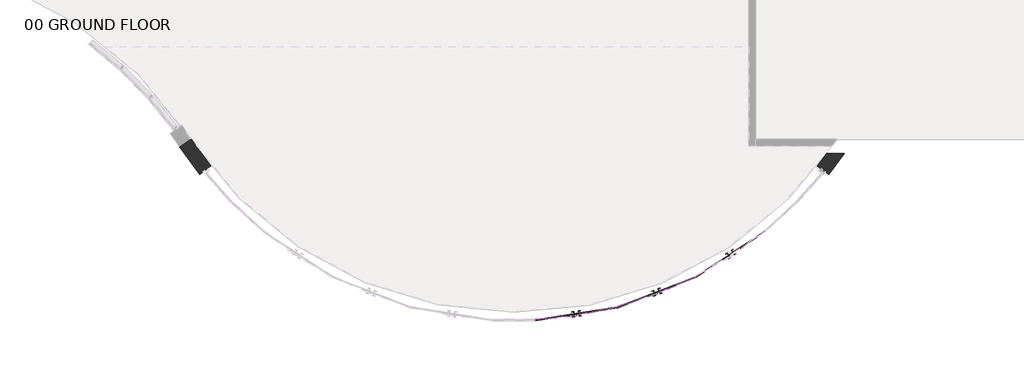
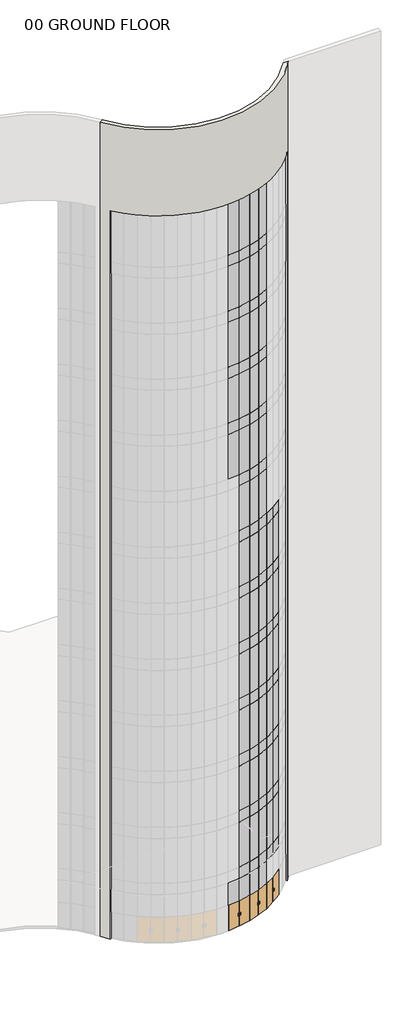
# One storey, part 3 of 33: 111 plates, 3 doors, 1 wall.
"""IFC4 building model written with IfcOpenShell, lengths in millimetres."""

from ifc_helpers import new_model, si_unit, frame, origin, place, context, project, spatial, polyline, circle_curve, transform, mapped, element, save
from ifc_brep_helpers import plane_surface, cylinder_surface, revolved_surface, advanced_brep
from components import door_curtain_wall_double_glass_door_curtain_wall_double_bdbd88c7, system_panel_su_blue_33e27b82, system_panel_su_blue_3064f965, system_panel_su_blue_5a18cedf, system_panel_su_blue_3781345d

model = new_model("IFC4")

# Units and contexts
model_context = context("Model", 3, world=origin())
ifc_project = project(units=[si_unit("LENGTHUNIT", "METRE", prefix="MILLI")], contexts=[model_context])

# Site, building, storey
site = spatial("IfcSite", under=ifc_project)
building = spatial("IfcBuilding", under=site)
storey = spatial("IfcBuildingStorey", under=building, Name="00 GROUND FLOOR", Elevation=0.0)

# Doors
placement = place(None, origin())
door_curtain_wall_double_glass_door_curtain_wall_double_shape = door_curtain_wall_double_glass_door_curtain_wall_double_bdbd88c7(model_context)
element("IfcDoor", 1, ObjectType="Door-Curtain-Wall-Double-Glass : Door-Curtain-Wall-Double-Glass", at=placement, inside=storey, context=model_context, shape_type="MappedRepresentation", body=[
    mapped(door_curtain_wall_double_glass_door_curtain_wall_double_shape, transform((34389.7708263, -2308.6939953, 63.5), x_axis=(-0.8353669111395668, -0.5496927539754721, 0.0), y_axis=(0.5496927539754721, -0.8353669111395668, 0.0), z_axis=(0.0, 0.0, 1.0))),
])
element("IfcDoor", 2, ObjectType="Door-Curtain-Wall-Double-Glass : Door-Curtain-Wall-Double-Glass", at=placement, inside=storey, context=model_context, shape_type="MappedRepresentation", body=[
    mapped(door_curtain_wall_double_glass_door_curtain_wall_double_shape, transform((32792.2078256, -3132.6589511, 63.5), x_axis=(-0.9321966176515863, -0.36195229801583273, 0.0), y_axis=(0.36195229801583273, -0.9321966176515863, 0.0), z_axis=(0.0, 0.0, 1.0))),
])
element("IfcDoor", 3, ObjectType="Door-Curtain-Wall-Double-Glass : Door-Curtain-Wall-Double-Glass", at=placement, inside=storey, context=model_context, shape_type="MappedRepresentation", body=[
    mapped(door_curtain_wall_double_glass_door_curtain_wall_double_shape, transform((31057.2073781, -3602.6581393, 63.5), x_axis=(-0.9874294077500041, -0.1580606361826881, 0.0), y_axis=(0.1580606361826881, -0.9874294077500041, 0.0), z_axis=(0.0, 0.0, 1.0))),
])

# Plates
system_panel_su_blue_shape = system_panel_su_blue_33e27b82(model_context)
element("IfcPlate", 4, ObjectType="System Panel : SU_BLUE", at=placement, inside=storey, context=model_context, shape_type="MappedRepresentation", body=[
    mapped(system_panel_su_blue_shape, transform((34780.4378309, -2080.27409, 3962.4), x_axis=(-0.8051279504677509, -0.5931011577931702, 0.0), y_axis=(0.5931011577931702, -0.8051279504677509, 0.0), z_axis=(0.0, 0.0, 1.0))),
])
element("IfcPlate", 5, ObjectType="System Panel : SU_BLUE", at=placement, inside=storey, context=model_context, shape_type="MappedRepresentation", body=[
    mapped(system_panel_su_blue_shape, transform((34025.4147454, -2577.0985555, 3962.4), x_axis=(-0.8632679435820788, -0.5047459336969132, 0.0), y_axis=(0.5047459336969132, -0.8632679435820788, 0.0), z_axis=(0.0, 0.0, 1.0))),
])
element("IfcPlate", 6, ObjectType="System Panel : SU_BLUE", at=placement, inside=storey, context=model_context, shape_type="MappedRepresentation", body=[
    mapped(system_panel_su_blue_shape, transform((33222.1401671, -2991.3983998, 3962.4), x_axis=(-0.9117506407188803, -0.41074416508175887, 0.0), y_axis=(0.41074416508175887, -0.9117506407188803, 0.0), z_axis=(0.0, 0.0, 1.0))),
])
element("IfcPlate", 7, ObjectType="System Panel : SU_BLUE", at=placement, inside=storey, context=model_context, shape_type="MappedRepresentation", body=[
    mapped(system_panel_su_blue_shape, transform((32379.6002518, -3318.5388901, 3962.4), x_axis=(-0.9500336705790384, -0.31214744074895, 0.0), y_axis=(0.31214744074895, -0.9500336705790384, 0.0), z_axis=(0.0, 0.0, 1.0))),
])
element("IfcPlate", 8, ObjectType="System Panel : SU_BLUE", at=placement, inside=storey, context=model_context, shape_type="MappedRepresentation", body=[
    mapped(system_panel_su_blue_shape, transform((31507.2204131, -3554.8603369, 3962.4), x_axis=(-0.9776887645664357, -0.21005875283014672, 0.0), y_axis=(0.21005875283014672, -0.9776887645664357, 0.0), z_axis=(0.0, 0.0, 1.0))),
])
element("IfcPlate", 9, ObjectType="System Panel : SU_BLUE", at=placement, inside=storey, context=model_context, shape_type="MappedRepresentation", body=[
    mapped(system_panel_su_blue_shape, transform((34780.4378309, -2080.27409, 8534.4), x_axis=(-0.8051279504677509, -0.5931011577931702, 0.0), y_axis=(0.5931011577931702, -0.8051279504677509, 0.0), z_axis=(0.0, 0.0, 1.0))),
])
element("IfcPlate", 10, ObjectType="System Panel : SU_BLUE", at=placement, inside=storey, context=model_context, shape_type="MappedRepresentation", body=[
    mapped(system_panel_su_blue_shape, transform((34025.4147454, -2577.0985555, 8534.4), x_axis=(-0.8632679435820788, -0.5047459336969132, 0.0), y_axis=(0.5047459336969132, -0.8632679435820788, 0.0), z_axis=(0.0, 0.0, 1.0))),
])
element("IfcPlate", 11, ObjectType="System Panel : SU_BLUE", at=placement, inside=storey, context=model_context, shape_type="MappedRepresentation", body=[
    mapped(system_panel_su_blue_shape, transform((33222.1401671, -2991.3983998, 8534.4), x_axis=(-0.9117506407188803, -0.41074416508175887, 0.0), y_axis=(0.41074416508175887, -0.9117506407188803, 0.0), z_axis=(0.0, 0.0, 1.0))),
])
element("IfcPlate", 12, ObjectType="System Panel : SU_BLUE", at=placement, inside=storey, context=model_context, shape_type="MappedRepresentation", body=[
    mapped(system_panel_su_blue_shape, transform((32379.6002518, -3318.5388901, 8534.4), x_axis=(-0.9500336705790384, -0.31214744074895, 0.0), y_axis=(0.31214744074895, -0.9500336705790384, 0.0), z_axis=(0.0, 0.0, 1.0))),
])
element("IfcPlate", 13, ObjectType="System Panel : SU_BLUE", at=placement, inside=storey, context=model_context, shape_type="MappedRepresentation", body=[
    mapped(system_panel_su_blue_shape, transform((31507.2204131, -3554.8603369, 8534.4), x_axis=(-0.9776887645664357, -0.21005875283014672, 0.0), y_axis=(0.21005875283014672, -0.9776887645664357, 0.0), z_axis=(0.0, 0.0, 1.0))),
])
element("IfcPlate", 14, ObjectType="System Panel : SU_BLUE", at=placement, inside=storey, context=model_context, shape_type="MappedRepresentation", body=[
    mapped(system_panel_su_blue_shape, transform((34780.4378309, -2080.27409, 13106.4), x_axis=(-0.8051279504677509, -0.5931011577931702, 0.0), y_axis=(0.5931011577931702, -0.8051279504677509, 0.0), z_axis=(0.0, 0.0, 1.0))),
])
element("IfcPlate", 15, ObjectType="System Panel : SU_BLUE", at=placement, inside=storey, context=model_context, shape_type="MappedRepresentation", body=[
    mapped(system_panel_su_blue_shape, transform((34025.4147454, -2577.0985555, 13106.4), x_axis=(-0.8632679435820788, -0.5047459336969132, 0.0), y_axis=(0.5047459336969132, -0.8632679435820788, 0.0), z_axis=(0.0, 0.0, 1.0))),
])
element("IfcPlate", 16, ObjectType="System Panel : SU_BLUE", at=placement, inside=storey, context=model_context, shape_type="MappedRepresentation", body=[
    mapped(system_panel_su_blue_shape, transform((33222.1401671, -2991.3983998, 13106.4), x_axis=(-0.9117506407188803, -0.41074416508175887, 0.0), y_axis=(0.41074416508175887, -0.9117506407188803, 0.0), z_axis=(0.0, 0.0, 1.0))),
])
element("IfcPlate", 17, ObjectType="System Panel : SU_BLUE", at=placement, inside=storey, context=model_context, shape_type="MappedRepresentation", body=[
    mapped(system_panel_su_blue_shape, transform((32379.6002518, -3318.5388901, 13106.4), x_axis=(-0.9500336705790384, -0.31214744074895, 0.0), y_axis=(0.31214744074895, -0.9500336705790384, 0.0), z_axis=(0.0, 0.0, 1.0))),
])
element("IfcPlate", 18, ObjectType="System Panel : SU_BLUE", at=placement, inside=storey, context=model_context, shape_type="MappedRepresentation", body=[
    mapped(system_panel_su_blue_shape, transform((31507.2204131, -3554.8603369, 13106.4), x_axis=(-0.9776887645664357, -0.21005875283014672, 0.0), y_axis=(0.21005875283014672, -0.9776887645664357, 0.0), z_axis=(0.0, 0.0, 1.0))),
])
element("IfcPlate", 19, ObjectType="System Panel : SU_BLUE", at=placement, inside=storey, context=model_context, shape_type="MappedRepresentation", body=[
    mapped(system_panel_su_blue_shape, transform((34780.4378309, -2080.27409, 17678.4), x_axis=(-0.8051279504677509, -0.5931011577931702, 0.0), y_axis=(0.5931011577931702, -0.8051279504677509, 0.0), z_axis=(0.0, 0.0, 1.0))),
])
element("IfcPlate", 20, ObjectType="System Panel : SU_BLUE", at=placement, inside=storey, context=model_context, shape_type="MappedRepresentation", body=[
    mapped(system_panel_su_blue_shape, transform((34025.4147454, -2577.0985555, 17678.4), x_axis=(-0.8632679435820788, -0.5047459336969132, 0.0), y_axis=(0.5047459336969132, -0.8632679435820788, 0.0), z_axis=(0.0, 0.0, 1.0))),
])
element("IfcPlate", 21, ObjectType="System Panel : SU_BLUE", at=placement, inside=storey, context=model_context, shape_type="MappedRepresentation", body=[
    mapped(system_panel_su_blue_shape, transform((33222.1401671, -2991.3983998, 17678.4), x_axis=(-0.9117506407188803, -0.41074416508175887, 0.0), y_axis=(0.41074416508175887, -0.9117506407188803, 0.0), z_axis=(0.0, 0.0, 1.0))),
])
element("IfcPlate", 22, ObjectType="System Panel : SU_BLUE", at=placement, inside=storey, context=model_context, shape_type="MappedRepresentation", body=[
    mapped(system_panel_su_blue_shape, transform((32379.6002518, -3318.5388901, 17678.4), x_axis=(-0.9500336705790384, -0.31214744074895, 0.0), y_axis=(0.31214744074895, -0.9500336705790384, 0.0), z_axis=(0.0, 0.0, 1.0))),
])
element("IfcPlate", 23, ObjectType="System Panel : SU_BLUE", at=placement, inside=storey, context=model_context, shape_type="MappedRepresentation", body=[
    mapped(system_panel_su_blue_shape, transform((31507.2204131, -3554.8603369, 17678.4), x_axis=(-0.9776887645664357, -0.21005875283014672, 0.0), y_axis=(0.21005875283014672, -0.9776887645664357, 0.0), z_axis=(0.0, 0.0, 1.0))),
])
element("IfcPlate", 24, ObjectType="System Panel : SU_BLUE", at=placement, inside=storey, context=model_context, shape_type="MappedRepresentation", body=[
    mapped(system_panel_su_blue_shape, transform((34780.4378309, -2080.27409, 22250.4), x_axis=(-0.8051279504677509, -0.5931011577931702, 0.0), y_axis=(0.5931011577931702, -0.8051279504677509, 0.0), z_axis=(0.0, 0.0, 1.0))),
])
element("IfcPlate", 25, ObjectType="System Panel : SU_BLUE", at=placement, inside=storey, context=model_context, shape_type="MappedRepresentation", body=[
    mapped(system_panel_su_blue_shape, transform((34025.4147454, -2577.0985555, 22250.4), x_axis=(-0.8632679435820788, -0.5047459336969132, 0.0), y_axis=(0.5047459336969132, -0.8632679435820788, 0.0), z_axis=(0.0, 0.0, 1.0))),
])
element("IfcPlate", 26, ObjectType="System Panel : SU_BLUE", at=placement, inside=storey, context=model_context, shape_type="MappedRepresentation", body=[
    mapped(system_panel_su_blue_shape, transform((33222.1401671, -2991.3983998, 22250.4), x_axis=(-0.9117506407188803, -0.41074416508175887, 0.0), y_axis=(0.41074416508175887, -0.9117506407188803, 0.0), z_axis=(0.0, 0.0, 1.0))),
])
element("IfcPlate", 27, ObjectType="System Panel : SU_BLUE", at=placement, inside=storey, context=model_context, shape_type="MappedRepresentation", body=[
    mapped(system_panel_su_blue_shape, transform((32379.6002518, -3318.5388901, 22250.4), x_axis=(-0.9500336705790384, -0.31214744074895, 0.0), y_axis=(0.31214744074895, -0.9500336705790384, 0.0), z_axis=(0.0, 0.0, 1.0))),
])
element("IfcPlate", 28, ObjectType="System Panel : SU_BLUE", at=placement, inside=storey, context=model_context, shape_type="MappedRepresentation", body=[
    mapped(system_panel_su_blue_shape, transform((31507.2204131, -3554.8603369, 22250.4), x_axis=(-0.9776887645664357, -0.21005875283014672, 0.0), y_axis=(0.21005875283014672, -0.9776887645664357, 0.0), z_axis=(0.0, 0.0, 1.0))),
])
element("IfcPlate", 29, ObjectType="System Panel : SU_BLUE", at=placement, inside=storey, context=model_context, shape_type="MappedRepresentation", body=[
    mapped(system_panel_su_blue_shape, transform((34780.4378309, -2080.27409, 26822.4), x_axis=(-0.8051279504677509, -0.5931011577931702, 0.0), y_axis=(0.5931011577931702, -0.8051279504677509, 0.0), z_axis=(0.0, 0.0, 1.0))),
])
element("IfcPlate", 30, ObjectType="System Panel : SU_BLUE", at=placement, inside=storey, context=model_context, shape_type="MappedRepresentation", body=[
    mapped(system_panel_su_blue_shape, transform((34025.4147454, -2577.0985555, 26822.4), x_axis=(-0.8632679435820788, -0.5047459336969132, 0.0), y_axis=(0.5047459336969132, -0.8632679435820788, 0.0), z_axis=(0.0, 0.0, 1.0))),
])
element("IfcPlate", 31, ObjectType="System Panel : SU_BLUE", at=placement, inside=storey, context=model_context, shape_type="MappedRepresentation", body=[
    mapped(system_panel_su_blue_shape, transform((33222.1401671, -2991.3983998, 26822.4), x_axis=(-0.9117506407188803, -0.41074416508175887, 0.0), y_axis=(0.41074416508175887, -0.9117506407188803, 0.0), z_axis=(0.0, 0.0, 1.0))),
])
element("IfcPlate", 32, ObjectType="System Panel : SU_BLUE", at=placement, inside=storey, context=model_context, shape_type="MappedRepresentation", body=[
    mapped(system_panel_su_blue_shape, transform((32379.6002518, -3318.5388901, 26822.4), x_axis=(-0.9500336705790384, -0.31214744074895, 0.0), y_axis=(0.31214744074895, -0.9500336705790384, 0.0), z_axis=(0.0, 0.0, 1.0))),
])
element("IfcPlate", 33, ObjectType="System Panel : SU_BLUE", at=placement, inside=storey, context=model_context, shape_type="MappedRepresentation", body=[
    mapped(system_panel_su_blue_shape, transform((31507.2204131, -3554.8603369, 26822.4), x_axis=(-0.9776887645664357, -0.21005875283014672, 0.0), y_axis=(0.21005875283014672, -0.9776887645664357, 0.0), z_axis=(0.0, 0.0, 1.0))),
])
element("IfcPlate", 34, ObjectType="System Panel : SU_BLUE", at=placement, inside=storey, context=model_context, shape_type="MappedRepresentation", body=[
    mapped(system_panel_su_blue_shape, transform((34780.4378309, -2080.27409, 31394.4), x_axis=(-0.8051279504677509, -0.5931011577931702, 0.0), y_axis=(0.5931011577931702, -0.8051279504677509, 0.0), z_axis=(0.0, 0.0, 1.0))),
])
element("IfcPlate", 35, ObjectType="System Panel : SU_BLUE", at=placement, inside=storey, context=model_context, shape_type="MappedRepresentation", body=[
    mapped(system_panel_su_blue_shape, transform((34025.4147454, -2577.0985555, 31394.4), x_axis=(-0.8632679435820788, -0.5047459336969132, 0.0), y_axis=(0.5047459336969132, -0.8632679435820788, 0.0), z_axis=(0.0, 0.0, 1.0))),
])
element("IfcPlate", 36, ObjectType="System Panel : SU_BLUE", at=placement, inside=storey, context=model_context, shape_type="MappedRepresentation", body=[
    mapped(system_panel_su_blue_shape, transform((33222.1401671, -2991.3983998, 31394.4), x_axis=(-0.9117506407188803, -0.41074416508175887, 0.0), y_axis=(0.41074416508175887, -0.9117506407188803, 0.0), z_axis=(0.0, 0.0, 1.0))),
])
element("IfcPlate", 37, ObjectType="System Panel : SU_BLUE", at=placement, inside=storey, context=model_context, shape_type="MappedRepresentation", body=[
    mapped(system_panel_su_blue_shape, transform((32379.6002518, -3318.5388901, 31394.4), x_axis=(-0.9500336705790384, -0.31214744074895, 0.0), y_axis=(0.31214744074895, -0.9500336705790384, 0.0), z_axis=(0.0, 0.0, 1.0))),
])
element("IfcPlate", 38, ObjectType="System Panel : SU_BLUE", at=placement, inside=storey, context=model_context, shape_type="MappedRepresentation", body=[
    mapped(system_panel_su_blue_shape, transform((31507.2204131, -3554.8603369, 31394.4), x_axis=(-0.9776887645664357, -0.21005875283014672, 0.0), y_axis=(0.21005875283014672, -0.9776887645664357, 0.0), z_axis=(0.0, 0.0, 1.0))),
])
element("IfcPlate", 39, ObjectType="System Panel : SU_BLUE", at=placement, inside=storey, context=model_context, shape_type="MappedRepresentation", body=[
    mapped(system_panel_su_blue_shape, transform((33222.1401671, -2991.3983998, 35966.4), x_axis=(-0.9117506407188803, -0.41074416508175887, 0.0), y_axis=(0.41074416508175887, -0.9117506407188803, 0.0), z_axis=(0.0, 0.0, 1.0))),
])
element("IfcPlate", 40, ObjectType="System Panel : SU_BLUE", at=placement, inside=storey, context=model_context, shape_type="MappedRepresentation", body=[
    mapped(system_panel_su_blue_shape, transform((32379.6002518, -3318.5388901, 35966.4), x_axis=(-0.9500336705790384, -0.31214744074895, 0.0), y_axis=(0.31214744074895, -0.9500336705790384, 0.0), z_axis=(0.0, 0.0, 1.0))),
])
element("IfcPlate", 41, ObjectType="System Panel : SU_BLUE", at=placement, inside=storey, context=model_context, shape_type="MappedRepresentation", body=[
    mapped(system_panel_su_blue_shape, transform((31507.2204131, -3554.8603369, 35966.4), x_axis=(-0.9776887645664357, -0.21005875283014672, 0.0), y_axis=(0.21005875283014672, -0.9776887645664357, 0.0), z_axis=(0.0, 0.0, 1.0))),
])
element("IfcPlate", 42, ObjectType="System Panel : SU_BLUE", at=placement, inside=storey, context=model_context, shape_type="MappedRepresentation", body=[
    mapped(system_panel_su_blue_shape, transform((33222.1401671, -2991.3983998, 40538.4), x_axis=(-0.9117506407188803, -0.41074416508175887, 0.0), y_axis=(0.41074416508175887, -0.9117506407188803, 0.0), z_axis=(0.0, 0.0, 1.0))),
])
element("IfcPlate", 43, ObjectType="System Panel : SU_BLUE", at=placement, inside=storey, context=model_context, shape_type="MappedRepresentation", body=[
    mapped(system_panel_su_blue_shape, transform((32379.6002518, -3318.5388901, 40538.4), x_axis=(-0.9500336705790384, -0.31214744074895, 0.0), y_axis=(0.31214744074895, -0.9500336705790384, 0.0), z_axis=(0.0, 0.0, 1.0))),
])
element("IfcPlate", 44, ObjectType="System Panel : SU_BLUE", at=placement, inside=storey, context=model_context, shape_type="MappedRepresentation", body=[
    mapped(system_panel_su_blue_shape, transform((31507.2204131, -3554.8603369, 40538.4), x_axis=(-0.9776887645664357, -0.21005875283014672, 0.0), y_axis=(0.21005875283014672, -0.9776887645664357, 0.0), z_axis=(0.0, 0.0, 1.0))),
])
element("IfcPlate", 45, ObjectType="System Panel : SU_BLUE", at=placement, inside=storey, context=model_context, shape_type="MappedRepresentation", body=[
    mapped(system_panel_su_blue_shape, transform((30614.7598809, -3697.7190348, 40538.4), x_axis=(-0.9944065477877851, -0.10562015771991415, 0.0), y_axis=(0.10562015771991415, -0.9944065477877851, 0.0), z_axis=(0.0, 0.0, 1.0))),
])
element("IfcPlate", 46, ObjectType="System Panel : SU_BLUE", at=placement, inside=storey, context=model_context, shape_type="MappedRepresentation", body=[
    mapped(system_panel_su_blue_shape, transform((33222.1401671, -2991.3983998, 45110.4), x_axis=(-0.9117506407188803, -0.41074416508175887, 0.0), y_axis=(0.41074416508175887, -0.9117506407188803, 0.0), z_axis=(0.0, 0.0, 1.0))),
])
element("IfcPlate", 47, ObjectType="System Panel : SU_BLUE", at=placement, inside=storey, context=model_context, shape_type="MappedRepresentation", body=[
    mapped(system_panel_su_blue_shape, transform((32379.6002518, -3318.5388901, 45110.4), x_axis=(-0.9500336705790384, -0.31214744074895, 0.0), y_axis=(0.31214744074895, -0.9500336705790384, 0.0), z_axis=(0.0, 0.0, 1.0))),
])
element("IfcPlate", 48, ObjectType="System Panel : SU_BLUE", at=placement, inside=storey, context=model_context, shape_type="MappedRepresentation", body=[
    mapped(system_panel_su_blue_shape, transform((31507.2204131, -3554.8603369, 45110.4), x_axis=(-0.9776887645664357, -0.21005875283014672, 0.0), y_axis=(0.21005875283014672, -0.9776887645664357, 0.0), z_axis=(0.0, 0.0, 1.0))),
])
element("IfcPlate", 49, ObjectType="System Panel : SU_BLUE", at=placement, inside=storey, context=model_context, shape_type="MappedRepresentation", body=[
    mapped(system_panel_su_blue_shape, transform((30614.7598809, -3697.7190348, 45110.4), x_axis=(-0.9944065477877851, -0.10562015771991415, 0.0), y_axis=(0.10562015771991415, -0.9944065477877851, 0.0), z_axis=(0.0, 0.0, 1.0))),
])
element("IfcPlate", 50, ObjectType="System Panel : SU_BLUE", at=placement, inside=storey, context=model_context, shape_type="MappedRepresentation", body=[
    mapped(system_panel_su_blue_shape, transform((33222.1401671, -2991.3983998, 49682.4), x_axis=(-0.9117506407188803, -0.41074416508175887, 0.0), y_axis=(0.41074416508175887, -0.9117506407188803, 0.0), z_axis=(0.0, 0.0, 1.0))),
])
element("IfcPlate", 51, ObjectType="System Panel : SU_BLUE", at=placement, inside=storey, context=model_context, shape_type="MappedRepresentation", body=[
    mapped(system_panel_su_blue_shape, transform((32379.6002518, -3318.5388901, 49682.4), x_axis=(-0.9500336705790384, -0.31214744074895, 0.0), y_axis=(0.31214744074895, -0.9500336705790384, 0.0), z_axis=(0.0, 0.0, 1.0))),
])
element("IfcPlate", 52, ObjectType="System Panel : SU_BLUE", at=placement, inside=storey, context=model_context, shape_type="MappedRepresentation", body=[
    mapped(system_panel_su_blue_shape, transform((31507.2204131, -3554.8603369, 49682.4), x_axis=(-0.9776887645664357, -0.21005875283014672, 0.0), y_axis=(0.21005875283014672, -0.9776887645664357, 0.0), z_axis=(0.0, 0.0, 1.0))),
])
element("IfcPlate", 53, ObjectType="System Panel : SU_BLUE", at=placement, inside=storey, context=model_context, shape_type="MappedRepresentation", body=[
    mapped(system_panel_su_blue_shape, transform((30614.7598809, -3697.7190348, 49682.4), x_axis=(-0.9944065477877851, -0.10562015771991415, 0.0), y_axis=(0.10562015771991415, -0.9944065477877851, 0.0), z_axis=(0.0, 0.0, 1.0))),
])
element("IfcPlate", 54, ObjectType="System Panel : SU_BLUE", at=placement, inside=storey, context=model_context, shape_type="MappedRepresentation", body=[
    mapped(system_panel_su_blue_shape, transform((33222.1401671, -2991.3983998, 54254.4), x_axis=(-0.9117506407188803, -0.41074416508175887, 0.0), y_axis=(0.41074416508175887, -0.9117506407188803, 0.0), z_axis=(0.0, 0.0, 1.0))),
])
element("IfcPlate", 55, ObjectType="System Panel : SU_BLUE", at=placement, inside=storey, context=model_context, shape_type="MappedRepresentation", body=[
    mapped(system_panel_su_blue_shape, transform((32379.6002518, -3318.5388901, 54254.4), x_axis=(-0.9500336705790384, -0.31214744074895, 0.0), y_axis=(0.31214744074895, -0.9500336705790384, 0.0), z_axis=(0.0, 0.0, 1.0))),
])
element("IfcPlate", 56, ObjectType="System Panel : SU_BLUE", at=placement, inside=storey, context=model_context, shape_type="MappedRepresentation", body=[
    mapped(system_panel_su_blue_shape, transform((31507.2204131, -3554.8603369, 54254.4), x_axis=(-0.9776887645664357, -0.21005875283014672, 0.0), y_axis=(0.21005875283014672, -0.9776887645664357, 0.0), z_axis=(0.0, 0.0, 1.0))),
])
element("IfcPlate", 57, ObjectType="System Panel : SU_BLUE", at=placement, inside=storey, context=model_context, shape_type="MappedRepresentation", body=[
    mapped(system_panel_su_blue_shape, transform((30614.7598809, -3697.7190348, 54254.4), x_axis=(-0.9944065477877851, -0.10562015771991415, 0.0), y_axis=(0.10562015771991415, -0.9944065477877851, 0.0), z_axis=(0.0, 0.0, 1.0))),
])
system_panel_su_blue_2_shape = system_panel_su_blue_3064f965(model_context)
element("IfcPlate", 58, ObjectType="System Panel : SU_BLUE", at=placement, inside=storey, context=model_context, shape_type="MappedRepresentation", body=[
    mapped(system_panel_su_blue_2_shape, transform((34780.4378309, -2080.27409, 4876.8), x_axis=(-0.8051279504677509, -0.5931011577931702, 0.0), y_axis=(0.5931011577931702, -0.8051279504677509, 0.0), z_axis=(0.0, 0.0, 1.0))),
])
element("IfcPlate", 59, ObjectType="System Panel : SU_BLUE", at=placement, inside=storey, context=model_context, shape_type="MappedRepresentation", body=[
    mapped(system_panel_su_blue_2_shape, transform((34025.4147454, -2577.0985555, 4876.8), x_axis=(-0.8632679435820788, -0.5047459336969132, 0.0), y_axis=(0.5047459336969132, -0.8632679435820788, 0.0), z_axis=(0.0, 0.0, 1.0))),
])
element("IfcPlate", 60, ObjectType="System Panel : SU_BLUE", at=placement, inside=storey, context=model_context, shape_type="MappedRepresentation", body=[
    mapped(system_panel_su_blue_2_shape, transform((33222.1401671, -2991.3983998, 4876.8), x_axis=(-0.9117506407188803, -0.41074416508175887, 0.0), y_axis=(0.41074416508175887, -0.9117506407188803, 0.0), z_axis=(0.0, 0.0, 1.0))),
])
element("IfcPlate", 61, ObjectType="System Panel : SU_BLUE", at=placement, inside=storey, context=model_context, shape_type="MappedRepresentation", body=[
    mapped(system_panel_su_blue_2_shape, transform((32379.6002518, -3318.5388901, 4876.8), x_axis=(-0.9500336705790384, -0.31214744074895, 0.0), y_axis=(0.31214744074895, -0.9500336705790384, 0.0), z_axis=(0.0, 0.0, 1.0))),
])
element("IfcPlate", 62, ObjectType="System Panel : SU_BLUE", at=placement, inside=storey, context=model_context, shape_type="MappedRepresentation", body=[
    mapped(system_panel_su_blue_2_shape, transform((31507.2204131, -3554.8603369, 4876.8), x_axis=(-0.9776887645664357, -0.21005875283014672, 0.0), y_axis=(0.21005875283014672, -0.9776887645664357, 0.0), z_axis=(0.0, 0.0, 1.0))),
])
element("IfcPlate", 63, ObjectType="System Panel : SU_BLUE", at=placement, inside=storey, context=model_context, shape_type="MappedRepresentation", body=[
    mapped(system_panel_su_blue_2_shape, transform((34780.4378309, -2080.27409, 9448.8), x_axis=(-0.8051279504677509, -0.5931011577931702, 0.0), y_axis=(0.5931011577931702, -0.8051279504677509, 0.0), z_axis=(0.0, 0.0, 1.0))),
])
element("IfcPlate", 64, ObjectType="System Panel : SU_BLUE", at=placement, inside=storey, context=model_context, shape_type="MappedRepresentation", body=[
    mapped(system_panel_su_blue_2_shape, transform((34025.4147454, -2577.0985555, 9448.8), x_axis=(-0.8632679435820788, -0.5047459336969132, 0.0), y_axis=(0.5047459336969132, -0.8632679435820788, 0.0), z_axis=(0.0, 0.0, 1.0))),
])
element("IfcPlate", 65, ObjectType="System Panel : SU_BLUE", at=placement, inside=storey, context=model_context, shape_type="MappedRepresentation", body=[
    mapped(system_panel_su_blue_2_shape, transform((33222.1401671, -2991.3983998, 9448.8), x_axis=(-0.9117506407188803, -0.41074416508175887, 0.0), y_axis=(0.41074416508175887, -0.9117506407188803, 0.0), z_axis=(0.0, 0.0, 1.0))),
])
element("IfcPlate", 66, ObjectType="System Panel : SU_BLUE", at=placement, inside=storey, context=model_context, shape_type="MappedRepresentation", body=[
    mapped(system_panel_su_blue_2_shape, transform((32379.6002518, -3318.5388901, 9448.8), x_axis=(-0.9500336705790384, -0.31214744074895, 0.0), y_axis=(0.31214744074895, -0.9500336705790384, 0.0), z_axis=(0.0, 0.0, 1.0))),
])
element("IfcPlate", 67, ObjectType="System Panel : SU_BLUE", at=placement, inside=storey, context=model_context, shape_type="MappedRepresentation", body=[
    mapped(system_panel_su_blue_2_shape, transform((31507.2204131, -3554.8603369, 9448.8), x_axis=(-0.9776887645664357, -0.21005875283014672, 0.0), y_axis=(0.21005875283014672, -0.9776887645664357, 0.0), z_axis=(0.0, 0.0, 1.0))),
])
element("IfcPlate", 68, ObjectType="System Panel : SU_BLUE", at=placement, inside=storey, context=model_context, shape_type="MappedRepresentation", body=[
    mapped(system_panel_su_blue_2_shape, transform((34780.4378309, -2080.27409, 14020.8), x_axis=(-0.8051279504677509, -0.5931011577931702, 0.0), y_axis=(0.5931011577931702, -0.8051279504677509, 0.0), z_axis=(0.0, 0.0, 1.0))),
])
element("IfcPlate", 69, ObjectType="System Panel : SU_BLUE", at=placement, inside=storey, context=model_context, shape_type="MappedRepresentation", body=[
    mapped(system_panel_su_blue_2_shape, transform((34025.4147454, -2577.0985555, 14020.8), x_axis=(-0.8632679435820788, -0.5047459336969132, 0.0), y_axis=(0.5047459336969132, -0.8632679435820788, 0.0), z_axis=(0.0, 0.0, 1.0))),
])
element("IfcPlate", 70, ObjectType="System Panel : SU_BLUE", at=placement, inside=storey, context=model_context, shape_type="MappedRepresentation", body=[
    mapped(system_panel_su_blue_2_shape, transform((33222.1401671, -2991.3983998, 14020.8), x_axis=(-0.9117506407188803, -0.41074416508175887, 0.0), y_axis=(0.41074416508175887, -0.9117506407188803, 0.0), z_axis=(0.0, 0.0, 1.0))),
])
element("IfcPlate", 71, ObjectType="System Panel : SU_BLUE", at=placement, inside=storey, context=model_context, shape_type="MappedRepresentation", body=[
    mapped(system_panel_su_blue_2_shape, transform((32379.6002518, -3318.5388901, 14020.8), x_axis=(-0.9500336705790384, -0.31214744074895, 0.0), y_axis=(0.31214744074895, -0.9500336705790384, 0.0), z_axis=(0.0, 0.0, 1.0))),
])
element("IfcPlate", 72, ObjectType="System Panel : SU_BLUE", at=placement, inside=storey, context=model_context, shape_type="MappedRepresentation", body=[
    mapped(system_panel_su_blue_2_shape, transform((31507.2204131, -3554.8603369, 14020.8), x_axis=(-0.9776887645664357, -0.21005875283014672, 0.0), y_axis=(0.21005875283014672, -0.9776887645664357, 0.0), z_axis=(0.0, 0.0, 1.0))),
])
element("IfcPlate", 73, ObjectType="System Panel : SU_BLUE", at=placement, inside=storey, context=model_context, shape_type="MappedRepresentation", body=[
    mapped(system_panel_su_blue_2_shape, transform((34780.4378309, -2080.27409, 18592.8), x_axis=(-0.8051279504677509, -0.5931011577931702, 0.0), y_axis=(0.5931011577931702, -0.8051279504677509, 0.0), z_axis=(0.0, 0.0, 1.0))),
])
element("IfcPlate", 74, ObjectType="System Panel : SU_BLUE", at=placement, inside=storey, context=model_context, shape_type="MappedRepresentation", body=[
    mapped(system_panel_su_blue_2_shape, transform((34025.4147454, -2577.0985555, 18592.8), x_axis=(-0.8632679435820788, -0.5047459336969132, 0.0), y_axis=(0.5047459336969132, -0.8632679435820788, 0.0), z_axis=(0.0, 0.0, 1.0))),
])
element("IfcPlate", 75, ObjectType="System Panel : SU_BLUE", at=placement, inside=storey, context=model_context, shape_type="MappedRepresentation", body=[
    mapped(system_panel_su_blue_2_shape, transform((33222.1401671, -2991.3983998, 18592.8), x_axis=(-0.9117506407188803, -0.41074416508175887, 0.0), y_axis=(0.41074416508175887, -0.9117506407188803, 0.0), z_axis=(0.0, 0.0, 1.0))),
])
element("IfcPlate", 76, ObjectType="System Panel : SU_BLUE", at=placement, inside=storey, context=model_context, shape_type="MappedRepresentation", body=[
    mapped(system_panel_su_blue_2_shape, transform((32379.6002518, -3318.5388901, 18592.8), x_axis=(-0.9500336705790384, -0.31214744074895, 0.0), y_axis=(0.31214744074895, -0.9500336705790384, 0.0), z_axis=(0.0, 0.0, 1.0))),
])
element("IfcPlate", 77, ObjectType="System Panel : SU_BLUE", at=placement, inside=storey, context=model_context, shape_type="MappedRepresentation", body=[
    mapped(system_panel_su_blue_2_shape, transform((31507.2204131, -3554.8603369, 18592.8), x_axis=(-0.9776887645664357, -0.21005875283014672, 0.0), y_axis=(0.21005875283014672, -0.9776887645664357, 0.0), z_axis=(0.0, 0.0, 1.0))),
])
element("IfcPlate", 78, ObjectType="System Panel : SU_BLUE", at=placement, inside=storey, context=model_context, shape_type="MappedRepresentation", body=[
    mapped(system_panel_su_blue_2_shape, transform((34780.4378309, -2080.27409, 23164.8), x_axis=(-0.8051279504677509, -0.5931011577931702, 0.0), y_axis=(0.5931011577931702, -0.8051279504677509, 0.0), z_axis=(0.0, 0.0, 1.0))),
])
element("IfcPlate", 79, ObjectType="System Panel : SU_BLUE", at=placement, inside=storey, context=model_context, shape_type="MappedRepresentation", body=[
    mapped(system_panel_su_blue_2_shape, transform((34025.4147454, -2577.0985555, 23164.8), x_axis=(-0.8632679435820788, -0.5047459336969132, 0.0), y_axis=(0.5047459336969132, -0.8632679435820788, 0.0), z_axis=(0.0, 0.0, 1.0))),
])
element("IfcPlate", 80, ObjectType="System Panel : SU_BLUE", at=placement, inside=storey, context=model_context, shape_type="MappedRepresentation", body=[
    mapped(system_panel_su_blue_2_shape, transform((33222.1401671, -2991.3983998, 23164.8), x_axis=(-0.9117506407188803, -0.41074416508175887, 0.0), y_axis=(0.41074416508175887, -0.9117506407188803, 0.0), z_axis=(0.0, 0.0, 1.0))),
])
element("IfcPlate", 81, ObjectType="System Panel : SU_BLUE", at=placement, inside=storey, context=model_context, shape_type="MappedRepresentation", body=[
    mapped(system_panel_su_blue_2_shape, transform((32379.6002518, -3318.5388901, 23164.8), x_axis=(-0.9500336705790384, -0.31214744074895, 0.0), y_axis=(0.31214744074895, -0.9500336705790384, 0.0), z_axis=(0.0, 0.0, 1.0))),
])
element("IfcPlate", 82, ObjectType="System Panel : SU_BLUE", at=placement, inside=storey, context=model_context, shape_type="MappedRepresentation", body=[
    mapped(system_panel_su_blue_2_shape, transform((31507.2204131, -3554.8603369, 23164.8), x_axis=(-0.9776887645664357, -0.21005875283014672, 0.0), y_axis=(0.21005875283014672, -0.9776887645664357, 0.0), z_axis=(0.0, 0.0, 1.0))),
])
element("IfcPlate", 83, ObjectType="System Panel : SU_BLUE", at=placement, inside=storey, context=model_context, shape_type="MappedRepresentation", body=[
    mapped(system_panel_su_blue_2_shape, transform((34780.4378309, -2080.27409, 27736.8), x_axis=(-0.8051279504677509, -0.5931011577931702, 0.0), y_axis=(0.5931011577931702, -0.8051279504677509, 0.0), z_axis=(0.0, 0.0, 1.0))),
])
element("IfcPlate", 84, ObjectType="System Panel : SU_BLUE", at=placement, inside=storey, context=model_context, shape_type="MappedRepresentation", body=[
    mapped(system_panel_su_blue_2_shape, transform((34025.4147454, -2577.0985555, 27736.8), x_axis=(-0.8632679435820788, -0.5047459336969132, 0.0), y_axis=(0.5047459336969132, -0.8632679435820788, 0.0), z_axis=(0.0, 0.0, 1.0))),
])
element("IfcPlate", 85, ObjectType="System Panel : SU_BLUE", at=placement, inside=storey, context=model_context, shape_type="MappedRepresentation", body=[
    mapped(system_panel_su_blue_2_shape, transform((33222.1401671, -2991.3983998, 27736.8), x_axis=(-0.9117506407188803, -0.41074416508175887, 0.0), y_axis=(0.41074416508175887, -0.9117506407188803, 0.0), z_axis=(0.0, 0.0, 1.0))),
])
element("IfcPlate", 86, ObjectType="System Panel : SU_BLUE", at=placement, inside=storey, context=model_context, shape_type="MappedRepresentation", body=[
    mapped(system_panel_su_blue_2_shape, transform((32379.6002518, -3318.5388901, 27736.8), x_axis=(-0.9500336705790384, -0.31214744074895, 0.0), y_axis=(0.31214744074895, -0.9500336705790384, 0.0), z_axis=(0.0, 0.0, 1.0))),
])
element("IfcPlate", 87, ObjectType="System Panel : SU_BLUE", at=placement, inside=storey, context=model_context, shape_type="MappedRepresentation", body=[
    mapped(system_panel_su_blue_2_shape, transform((31507.2204131, -3554.8603369, 27736.8), x_axis=(-0.9776887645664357, -0.21005875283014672, 0.0), y_axis=(0.21005875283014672, -0.9776887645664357, 0.0), z_axis=(0.0, 0.0, 1.0))),
])
element("IfcPlate", 88, ObjectType="System Panel : SU_BLUE", at=placement, inside=storey, context=model_context, shape_type="MappedRepresentation", body=[
    mapped(system_panel_su_blue_2_shape, transform((33222.1401671, -2991.3983998, 32308.8), x_axis=(-0.9117506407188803, -0.4107441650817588, 0.0), y_axis=(0.4107441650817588, -0.9117506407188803, 0.0), z_axis=(0.0, 0.0, 1.0))),
])
element("IfcPlate", 89, ObjectType="System Panel : SU_BLUE", at=placement, inside=storey, context=model_context, shape_type="MappedRepresentation", body=[
    mapped(system_panel_su_blue_2_shape, transform((32379.6002518, -3318.5388901, 32308.8), x_axis=(-0.9500336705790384, -0.31214744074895, 0.0), y_axis=(0.31214744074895, -0.9500336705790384, 0.0), z_axis=(0.0, 0.0, 1.0))),
])
element("IfcPlate", 90, ObjectType="System Panel : SU_BLUE", at=placement, inside=storey, context=model_context, shape_type="MappedRepresentation", body=[
    mapped(system_panel_su_blue_2_shape, transform((31507.2204131, -3554.8603369, 32308.8), x_axis=(-0.9776887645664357, -0.21005875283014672, 0.0), y_axis=(0.21005875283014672, -0.9776887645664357, 0.0), z_axis=(0.0, 0.0, 1.0))),
])
element("IfcPlate", 91, ObjectType="System Panel : SU_BLUE", at=placement, inside=storey, context=model_context, shape_type="MappedRepresentation", body=[
    mapped(system_panel_su_blue_2_shape, transform((33222.1401671, -2991.3983998, 36880.8), x_axis=(-0.9117506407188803, -0.410744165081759, 0.0), y_axis=(0.410744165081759, -0.9117506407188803, 0.0), z_axis=(0.0, 0.0, 1.0))),
])
element("IfcPlate", 92, ObjectType="System Panel : SU_BLUE", at=placement, inside=storey, context=model_context, shape_type="MappedRepresentation", body=[
    mapped(system_panel_su_blue_2_shape, transform((32379.6002518, -3318.5388901, 36880.8), x_axis=(-0.9500336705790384, -0.31214744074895, 0.0), y_axis=(0.31214744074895, -0.9500336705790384, 0.0), z_axis=(0.0, 0.0, 1.0))),
])
element("IfcPlate", 93, ObjectType="System Panel : SU_BLUE", at=placement, inside=storey, context=model_context, shape_type="MappedRepresentation", body=[
    mapped(system_panel_su_blue_2_shape, transform((31507.2204131, -3554.8603369, 36880.8), x_axis=(-0.9776887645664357, -0.21005875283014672, 0.0), y_axis=(0.21005875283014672, -0.9776887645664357, 0.0), z_axis=(0.0, 0.0, 1.0))),
])
element("IfcPlate", 94, ObjectType="System Panel : SU_BLUE", at=placement, inside=storey, context=model_context, shape_type="MappedRepresentation", body=[
    mapped(system_panel_su_blue_2_shape, transform((30614.7598809, -3697.7190348, 36880.8), x_axis=(-0.9944065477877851, -0.10562015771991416, 0.0), y_axis=(0.10562015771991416, -0.9944065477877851, 0.0), z_axis=(0.0, 0.0, 1.0))),
])
element("IfcPlate", 95, ObjectType="System Panel : SU_BLUE", at=placement, inside=storey, context=model_context, shape_type="MappedRepresentation", body=[
    mapped(system_panel_su_blue_2_shape, transform((33222.1401671, -2991.3983998, 41452.8), x_axis=(-0.9117506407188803, -0.41074416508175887, 0.0), y_axis=(0.41074416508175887, -0.9117506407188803, 0.0), z_axis=(0.0, 0.0, 1.0))),
])
element("IfcPlate", 96, ObjectType="System Panel : SU_BLUE", at=placement, inside=storey, context=model_context, shape_type="MappedRepresentation", body=[
    mapped(system_panel_su_blue_2_shape, transform((32379.6002518, -3318.5388901, 41452.8), x_axis=(-0.9500336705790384, -0.31214744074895, 0.0), y_axis=(0.31214744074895, -0.9500336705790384, 0.0), z_axis=(0.0, 0.0, 1.0))),
])
element("IfcPlate", 97, ObjectType="System Panel : SU_BLUE", at=placement, inside=storey, context=model_context, shape_type="MappedRepresentation", body=[
    mapped(system_panel_su_blue_2_shape, transform((31507.2204131, -3554.8603369, 41452.8), x_axis=(-0.9776887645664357, -0.21005875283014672, 0.0), y_axis=(0.21005875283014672, -0.9776887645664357, 0.0), z_axis=(0.0, 0.0, 1.0))),
])
element("IfcPlate", 98, ObjectType="System Panel : SU_BLUE", at=placement, inside=storey, context=model_context, shape_type="MappedRepresentation", body=[
    mapped(system_panel_su_blue_2_shape, transform((30614.7598809, -3697.7190348, 41452.8), x_axis=(-0.9944065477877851, -0.10562015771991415, 0.0), y_axis=(0.10562015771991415, -0.9944065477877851, 0.0), z_axis=(0.0, 0.0, 1.0))),
])
element("IfcPlate", 99, ObjectType="System Panel : SU_BLUE", at=placement, inside=storey, context=model_context, shape_type="MappedRepresentation", body=[
    mapped(system_panel_su_blue_2_shape, transform((33222.1401671, -2991.3983998, 46024.8), x_axis=(-0.9117506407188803, -0.41074416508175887, 0.0), y_axis=(0.41074416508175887, -0.9117506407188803, 0.0), z_axis=(0.0, 0.0, 1.0))),
])
element("IfcPlate", 100, ObjectType="System Panel : SU_BLUE", at=placement, inside=storey, context=model_context, shape_type="MappedRepresentation", body=[
    mapped(system_panel_su_blue_2_shape, transform((32379.6002518, -3318.5388901, 46024.8), x_axis=(-0.9500336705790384, -0.31214744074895, 0.0), y_axis=(0.31214744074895, -0.9500336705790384, 0.0), z_axis=(0.0, 0.0, 1.0))),
])
element("IfcPlate", 101, ObjectType="System Panel : SU_BLUE", at=placement, inside=storey, context=model_context, shape_type="MappedRepresentation", body=[
    mapped(system_panel_su_blue_2_shape, transform((31507.2204131, -3554.8603369, 46024.8), x_axis=(-0.9776887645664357, -0.21005875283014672, 0.0), y_axis=(0.21005875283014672, -0.9776887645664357, 0.0), z_axis=(0.0, 0.0, 1.0))),
])
element("IfcPlate", 102, ObjectType="System Panel : SU_BLUE", at=placement, inside=storey, context=model_context, shape_type="MappedRepresentation", body=[
    mapped(system_panel_su_blue_2_shape, transform((30614.7598809, -3697.7190348, 46024.8), x_axis=(-0.9944065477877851, -0.10562015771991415, 0.0), y_axis=(0.10562015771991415, -0.9944065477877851, 0.0), z_axis=(0.0, 0.0, 1.0))),
])
element("IfcPlate", 103, ObjectType="System Panel : SU_BLUE", at=placement, inside=storey, context=model_context, shape_type="MappedRepresentation", body=[
    mapped(system_panel_su_blue_2_shape, transform((33222.1401671, -2991.3983998, 50596.8), x_axis=(-0.9117506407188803, -0.41074416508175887, 0.0), y_axis=(0.41074416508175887, -0.9117506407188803, 0.0), z_axis=(0.0, 0.0, 1.0))),
])
element("IfcPlate", 104, ObjectType="System Panel : SU_BLUE", at=placement, inside=storey, context=model_context, shape_type="MappedRepresentation", body=[
    mapped(system_panel_su_blue_2_shape, transform((32379.6002518, -3318.5388901, 50596.8), x_axis=(-0.9500336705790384, -0.31214744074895, 0.0), y_axis=(0.31214744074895, -0.9500336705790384, 0.0), z_axis=(0.0, 0.0, 1.0))),
])
element("IfcPlate", 105, ObjectType="System Panel : SU_BLUE", at=placement, inside=storey, context=model_context, shape_type="MappedRepresentation", body=[
    mapped(system_panel_su_blue_2_shape, transform((31507.2204131, -3554.8603369, 50596.8), x_axis=(-0.9776887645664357, -0.21005875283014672, 0.0), y_axis=(0.21005875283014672, -0.9776887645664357, 0.0), z_axis=(0.0, 0.0, 1.0))),
])
element("IfcPlate", 106, ObjectType="System Panel : SU_BLUE", at=placement, inside=storey, context=model_context, shape_type="MappedRepresentation", body=[
    mapped(system_panel_su_blue_2_shape, transform((30614.7598809, -3697.7190348, 50596.8), x_axis=(-0.9944065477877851, -0.10562015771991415, 0.0), y_axis=(0.10562015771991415, -0.9944065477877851, 0.0), z_axis=(0.0, 0.0, 1.0))),
])
system_panel_su_blue_3_shape = system_panel_su_blue_5a18cedf(model_context)
element("IfcPlate", 107, ObjectType="System Panel : SU_BLUE", at=placement, inside=storey, context=model_context, shape_type="MappedRepresentation", body=[
    mapped(system_panel_su_blue_3_shape, transform((33222.1401671, -2991.3983998, 2133.6), x_axis=(-0.9117506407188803, -0.41074416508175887, 0.0), y_axis=(0.41074416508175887, -0.9117506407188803, 0.0), z_axis=(0.0, 0.0, 1.0))),
])
element("IfcPlate", 108, ObjectType="System Panel : SU_BLUE", at=placement, inside=storey, context=model_context, shape_type="MappedRepresentation", body=[
    mapped(system_panel_su_blue_3_shape, transform((32379.6002518, -3318.5388901, 2133.6), x_axis=(-0.9500336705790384, -0.31214744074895, 0.0), y_axis=(0.31214744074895, -0.9500336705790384, 0.0), z_axis=(0.0, 0.0, 1.0))),
])
element("IfcPlate", 109, ObjectType="System Panel : SU_BLUE", at=placement, inside=storey, context=model_context, shape_type="MappedRepresentation", body=[
    mapped(system_panel_su_blue_3_shape, transform((31507.2204131, -3554.8603369, 2133.6), x_axis=(-0.9776887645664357, -0.2100587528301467, 0.0), y_axis=(0.2100587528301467, -0.9776887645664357, 0.0), z_axis=(0.0, 0.0, 1.0))),
])
element("IfcPlate", 110, ObjectType="System Panel : SU_BLUE", at=placement, inside=storey, context=model_context, shape_type="MappedRepresentation", body=[
    mapped(system_panel_su_blue_3_shape, transform((30614.7598809, -3697.7190348, 2133.6), x_axis=(-0.9944065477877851, -0.10562015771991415, 0.0), y_axis=(0.10562015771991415, -0.9944065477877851, 0.0), z_axis=(0.0, 0.0, 1.0))),
])
system_panel_su_blue_4_shape = system_panel_su_blue_3781345d(model_context)
element("IfcPlate", 111, ObjectType="System Panel : SU_BLUE", at=placement, inside=storey, context=model_context, shape_type="MappedRepresentation", body=[
    mapped(system_panel_su_blue_4_shape, transform((33222.1401671, -2991.3983998, 55168.8), x_axis=(-0.9117506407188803, -0.4107441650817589, 0.0), y_axis=(0.4107441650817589, -0.9117506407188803, 0.0), z_axis=(0.0, 0.0, 1.0))),
])
element("IfcPlate", 112, ObjectType="System Panel : SU_BLUE", at=placement, inside=storey, context=model_context, shape_type="MappedRepresentation", body=[
    mapped(system_panel_su_blue_4_shape, transform((32379.6002518, -3318.5388901, 55168.8), x_axis=(-0.9500336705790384, -0.31214744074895, 0.0), y_axis=(0.31214744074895, -0.9500336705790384, 0.0), z_axis=(0.0, 0.0, 1.0))),
])
element("IfcPlate", 113, ObjectType="System Panel : SU_BLUE", at=placement, inside=storey, context=model_context, shape_type="MappedRepresentation", body=[
    mapped(system_panel_su_blue_4_shape, transform((31507.2204131, -3554.8603369, 55168.8), x_axis=(-0.9776887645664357, -0.21005875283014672, 0.0), y_axis=(0.21005875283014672, -0.9776887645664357, 0.0), z_axis=(0.0, 0.0, 1.0))),
])
element("IfcPlate", 114, ObjectType="System Panel : SU_BLUE", at=placement, inside=storey, context=model_context, shape_type="MappedRepresentation", body=[
    mapped(system_panel_su_blue_4_shape, transform((30614.7598809, -3697.7190348, 55168.8), x_axis=(-0.9944065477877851, -0.10562015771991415, 0.0), y_axis=(0.10562015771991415, -0.9944065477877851, 0.0), z_axis=(0.0, 0.0, 1.0))),
])

# Wall
element("IfcWall", 115, ObjectType="Exterior - MAIN EIFS WITH LGMF", at=placement, inside=storey, context=model_context, shape_type="AdvancedBrep", body=[
    advanced_brep(
    [(22451.4833333, -16.4196339, 66446.4), (36878.6712728, -155.575, 66446.4), (36496.9703155, -155.575, 66446.4), (22710.775, 155.575, 66446.4), (22451.4833333, -16.4196339, 0.0), (22710.775, 155.575, 0.0), (23133.7933918, -426.4176045, 0.0), (22890.1678366, -619.9658191, 0.0), (36496.9703155, -155.575, 0.0), (36878.6712728, -155.575, 0.0), (36534.2372149, -619.9658191, 0.0), (36290.6116596, -426.4176045, 0.0), (22890.1678366, -619.9658191, 59436.0), (36534.2372149, -619.9658191, 59436.0), (36290.6116596, -426.4176045, 59436.0), (23133.7933918, -426.4176045, 59436.0)],
    [
        (0, 1, circle_curve(frame((29712.2025257, 4799.7966199, 66446.4), z_axis=(0.0, 0.0, 1.0), x_axis=(1.0, 0.0, 0.0)), 8712.8630309)),
        (1, 2),
        (2, 3, circle_curve(frame((29712.2025257, 4799.7966199, 66446.4), z_axis=(0.0, 0.0, -1.0), x_axis=(1.0, 0.0, 0.0)), 8401.7130309)),
        (3, 0),
        (4, 5),
        (5, 6, circle_curve(frame((29712.2025257, 4799.7966199, 0.0), z_axis=(0.0, 0.0, 1.0), x_axis=(1.0, 0.0, 0.0)), 8401.7130309)),
        (6, 7),
        (7, 4, circle_curve(frame((29712.2025257, 4799.7966199, 0.0), z_axis=(0.0, 0.0, -1.0), x_axis=(1.0, 0.0, 0.0)), 8712.8630309)),
        (8, 9),
        (9, 10, circle_curve(frame((29712.2025257, 4799.7966199, 0.0), z_axis=(0.0, 0.0, -1.0), x_axis=(1.0, 0.0, 0.0)), 8712.8630309)),
        (10, 11),
        (11, 8, circle_curve(frame((29712.2025257, 4799.7966199, 0.0), z_axis=(0.0, 0.0, 1.0), x_axis=(1.0, 0.0, 0.0)), 8401.7130309)),
        (0, 4),
        (7, 12),
        (12, 13, circle_curve(frame((29712.2025257, 4799.7966199, 59436.0), z_axis=(0.0, 0.0, 1.0), x_axis=(1.0, 0.0, 0.0)), 8712.8630309)),
        (13, 10),
        (9, 1),
        (2, 8),
        (11, 14),
        (14, 15, circle_curve(frame((29712.2025257, 4799.7966199, 59436.0), z_axis=(0.0, 0.0, -1.0), x_axis=(1.0, 0.0, 0.0)), 8401.7130309)),
        (15, 6),
        (5, 3),
        (14, 13),
        (12, 15),
    ],
    [
        plane_surface(frame((38425.0655566, 4799.7966199, 66446.4), z_axis=(0.0, 0.0, 1.0), x_axis=(0.0, 1.0, 0.0))),
        plane_surface(frame((38425.0655566, 4799.7966199, 0.0), z_axis=(0.0, 0.0, -1.0), x_axis=(0.0, -1.0, 0.0))),
        cylinder_surface(frame((29712.2025257, 4799.7966199, 0.0), z_axis=(0.0, 0.0, 1.0), x_axis=(1.0, 0.0, 0.0)), 8712.8630309),
        revolved_surface(polyline([(38113.9155566, 4799.7966199, 0.0), (38113.9155566, 4799.7966199, 66446.4)]), (29712.2025257, 4799.7966199, 0.0), (0.0, 0.0, -1.0)),
        plane_surface(frame((22710.775, 155.575, 66446.4), z_axis=(-0.5527707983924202, 0.8333333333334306, 0.0), x_axis=(0.0, 0.0, -1.0))),
        plane_surface(frame((44028.8300515, -155.575, 0.0), z_axis=(0.0, 1.0, 0.0), x_axis=(1.0, 0.0, 0.0))),
        plane_surface(frame((29712.2025257, -4065.4664109, 59436.0), z_axis=(0.0, 0.0, -1.0), x_axis=(-1.0, 0.0, 0.0))),
        plane_surface(frame((22770.841034, -714.7649445, 29718.0), z_axis=(0.6220415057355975, -0.7829842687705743, 0.0), x_axis=(0.0, 0.0, -1.0))),
        plane_surface(frame((36653.5640174, -714.7649445, 29718.0), z_axis=(-0.6220415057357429, -0.7829842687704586, 0.0), x_axis=(0.0, 0.0, 1.0))),
    ],
    [
        (0, [[1, 2, 3, 4]]),
        (1, [[5, 6, 7, 8]]),
        (1, [[9, 10, 11, 12]]),
        (2, [[-1, 13, -8, 14, 15, 16, -10, 17]]),
        (3, [[-3, 18, -12, 19, 20, 21, -6, 22]]),
        (4, [[-4, -22, -5, -13]]),
        (5, [[-9, -18, -2, -17]]),
        (6, [[23, -15, 24, -20]]),
        (7, [[-24, -14, -7, -21]]),
        (8, [[-23, -19, -11, -16]]),
    ],
),
])

save(model, "model.ifc")
